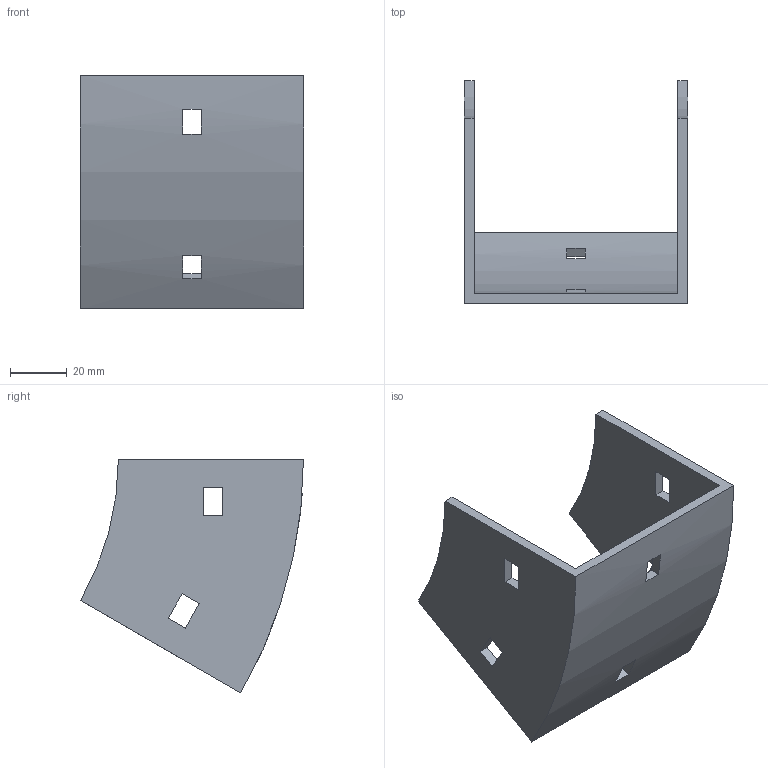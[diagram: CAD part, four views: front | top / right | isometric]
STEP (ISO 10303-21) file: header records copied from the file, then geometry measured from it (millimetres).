
FILE_DESCRIPTION (( 'STEP AP214' ), '1' );
FILE_NAME ('32B1H075.step', '2025-02-21T09:43:52', ( '' ), ( '' ), 'SwSTEP 2.0', 'SolidWorks 2023', '' );
FILE_SCHEMA (( 'AUTOMOTIVE_DESIGN' ));
Length unit declared in the file: millimetre
Products named in the file (1): 32B1H075
Bounding box: 79 x 78.9 x 82.75 mm (x, y, z)
Volume: 52084 mm3; surface area: 32250.4 mm2
Topology: 1 solids, 1 shells, 34 faces, 96 edges, 64 vertices
Faces by surface type: plane 30, cylinder 4
Entity records: 1143 total; most frequent: CARTESIAN_POINT 195, ORIENTED_EDGE 192, DIRECTION 182, EDGE_CURVE 96, LINE 80, VECTOR 80, VERTEX_POINT 64, AXIS2_PLACEMENT_3D 51
